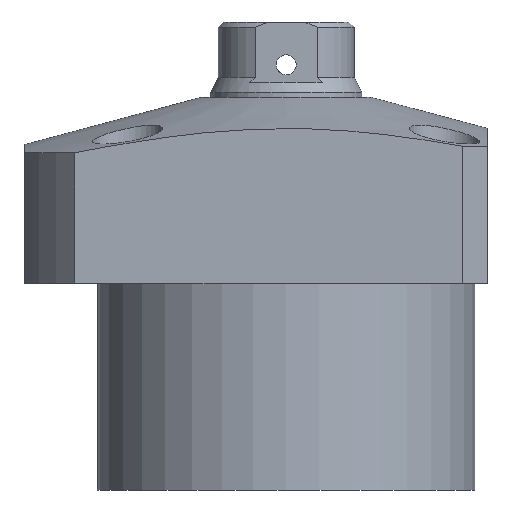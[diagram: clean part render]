
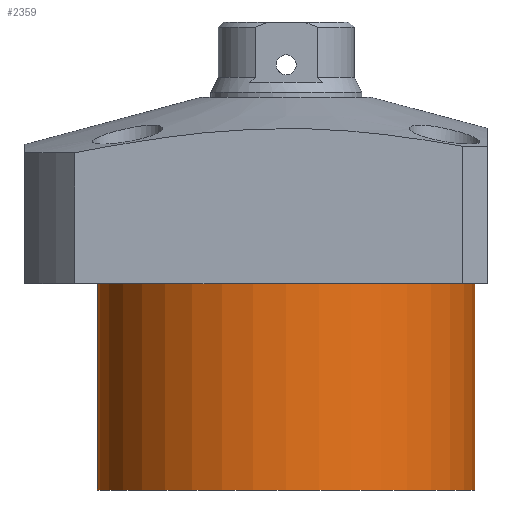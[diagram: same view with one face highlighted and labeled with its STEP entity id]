
A CAD part, front view. The second image highlights one B-rep face of the part: STEP entity #2359.
In plain terms, the highlighted cylindrical face has radius 37.5 mm (diameter 75 mm), a partial arc.
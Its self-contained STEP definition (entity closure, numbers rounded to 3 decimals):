
#38 = VECTOR ( 'NONE', #80, 1000. ) ;
#47 = EDGE_CURVE ( 'NONE', #2020, #2798, #506, .T. ) ;
#80 = DIRECTION ( 'NONE',  ( 0., 0., 1. ) ) ;
#100 = VERTEX_POINT ( 'NONE', #2704 ) ;
#245 = CARTESIAN_POINT ( 'NONE',  ( 0., 0., -18.5 ) ) ;
#356 = CARTESIAN_POINT ( 'NONE',  ( 37.5, 0., -59.5 ) ) ;
#506 = CIRCLE ( 'NONE', #510, 37.5 ) ;
#510 = AXIS2_PLACEMENT_3D ( 'NONE', #2612, #1772, #1098 ) ;
#578 = DIRECTION ( 'NONE',  ( 0., 0., 1. ) ) ;
#677 = CARTESIAN_POINT ( 'NONE',  ( -37.5, 0., -18.5 ) ) ;
#860 = CYLINDRICAL_SURFACE ( 'NONE', #1526, 37.5 ) ;
#1041 = CIRCLE ( 'NONE', #2775, 37.5 ) ;
#1098 = DIRECTION ( 'NONE',  ( -1., 0., 0. ) ) ;
#1250 = LINE ( 'NONE', #2261, #38 ) ;
#1265 = CARTESIAN_POINT ( 'NONE',  ( 37.5, 0., -59.5 ) ) ;
#1312 = FACE_OUTER_BOUND ( 'NONE', #1624, .T. ) ;
#1315 = VERTEX_POINT ( 'NONE', #677 ) ;
#1484 = DIRECTION ( 'NONE',  ( 1., 0., 0. ) ) ;
#1526 = AXIS2_PLACEMENT_3D ( 'NONE', #2774, #1935, #1484 ) ;
#1554 = EDGE_CURVE ( 'NONE', #2020, #100, #2445, .T. ) ;
#1597 = DIRECTION ( 'NONE',  ( 0., 0., -1. ) ) ;
#1624 = EDGE_LOOP ( 'NONE', ( #1832, #1795, #2635, #1858 ) ) ;
#1724 = VECTOR ( 'NONE', #578, 1000. ) ;
#1772 = DIRECTION ( 'NONE',  ( 0., 0., -1. ) ) ;
#1795 = ORIENTED_EDGE ( 'NONE', *, *, #47, .F. ) ;
#1798 = CARTESIAN_POINT ( 'NONE',  ( -37.5, 0., -59.5 ) ) ;
#1832 = ORIENTED_EDGE ( 'NONE', *, *, #2215, .F. ) ;
#1858 = ORIENTED_EDGE ( 'NONE', *, *, #2784, .T. ) ;
#1935 = DIRECTION ( 'NONE',  ( 0., 0., 1. ) ) ;
#2020 = VERTEX_POINT ( 'NONE', #1265 ) ;
#2033 = DIRECTION ( 'NONE',  ( 1., 0., 0. ) ) ;
#2215 = EDGE_CURVE ( 'NONE', #2798, #1315, #1250, .T. ) ;
#2261 = CARTESIAN_POINT ( 'NONE',  ( -37.5, 0., -59.5 ) ) ;
#2359 = ADVANCED_FACE ( 'NONE', ( #1312 ), #860, .T. ) ;
#2445 = LINE ( 'NONE', #356, #1724 ) ;
#2612 = CARTESIAN_POINT ( 'NONE',  ( 0., 0., -59.5 ) ) ;
#2635 = ORIENTED_EDGE ( 'NONE', *, *, #1554, .T. ) ;
#2704 = CARTESIAN_POINT ( 'NONE',  ( 37.5, 0., -18.5 ) ) ;
#2774 = CARTESIAN_POINT ( 'NONE',  ( 0., 0., -59.5 ) ) ;
#2775 = AXIS2_PLACEMENT_3D ( 'NONE', #245, #1597, #2033 ) ;
#2784 = EDGE_CURVE ( 'NONE', #100, #1315, #1041, .T. ) ;
#2798 = VERTEX_POINT ( 'NONE', #1798 ) ;
